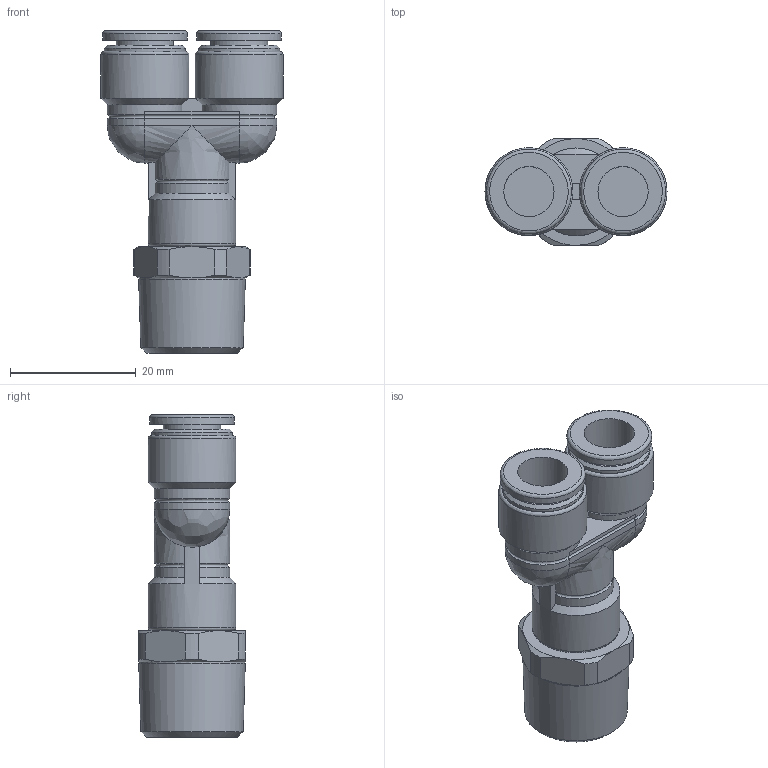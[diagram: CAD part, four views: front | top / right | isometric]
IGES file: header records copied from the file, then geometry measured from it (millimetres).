
Global section: file name: [10] FS8-03MY FS8-03MYW; native system: Autodesk Inventor 2014; preprocessor: unknown; author: kazuhiro.t; date: 20130806.165622; units: millimetre
Bounding box: 29 x 17 x 51.4 mm (x, y, z)
Volume: 9954.9 mm3; surface area: 4854.5 mm2
Topology: 1 solids, 1 shells, 92 faces, 215 edges, 130 vertices
Faces by surface type: bspline 92
